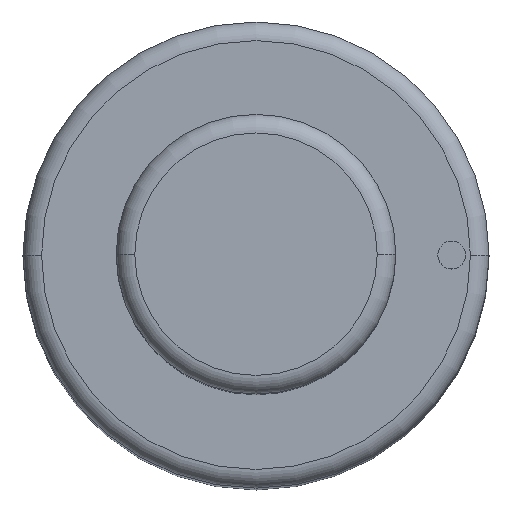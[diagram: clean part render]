
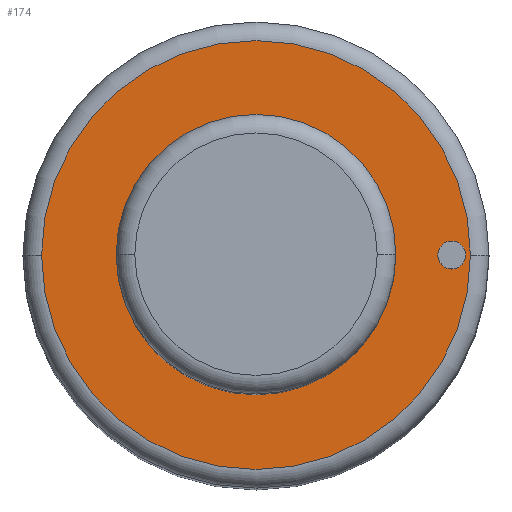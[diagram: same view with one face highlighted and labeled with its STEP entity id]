
A CAD part, top view. The second image highlights one B-rep face of the part: STEP entity #174.
In plain terms, the highlighted planar face has unit normal (0, 0, 1).
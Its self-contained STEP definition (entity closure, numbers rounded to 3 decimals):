
#99=FACE_BOUND('',#225,.T.);
#100=FACE_BOUND('',#226,.T.);
#101=FACE_BOUND('',#227,.T.);
#174=ADVANCED_FACE('',(#99,#100,#101),#180,.T.);
#180=PLANE('',#475);
#225=EDGE_LOOP('',(#307,#308));
#226=EDGE_LOOP('',(#309,#310));
#227=EDGE_LOOP('',(#311,#312));
#307=ORIENTED_EDGE('',*,*,#367,.F.);
#308=ORIENTED_EDGE('',*,*,#368,.F.);
#309=ORIENTED_EDGE('',*,*,#390,.F.);
#310=ORIENTED_EDGE('',*,*,#391,.F.);
#311=ORIENTED_EDGE('',*,*,#363,.T.);
#312=ORIENTED_EDGE('',*,*,#361,.T.);
#329=VERTEX_POINT('',#630);
#330=VERTEX_POINT('',#632);
#331=VERTEX_POINT('',#638);
#334=VERTEX_POINT('',#643);
#346=VERTEX_POINT('',#692);
#347=VERTEX_POINT('',#693);
#361=EDGE_CURVE('',#330,#329,#404,.T.);
#363=EDGE_CURVE('',#329,#330,#405,.T.);
#367=EDGE_CURVE('',#334,#331,#409,.T.);
#368=EDGE_CURVE('',#331,#334,#410,.T.);
#390=EDGE_CURVE('',#346,#347,#422,.T.);
#391=EDGE_CURVE('',#347,#346,#423,.T.);
#404=CIRCLE('',#440,7.5);
#405=CIRCLE('',#442,7.5);
#409=CIRCLE('',#447,11.5);
#410=CIRCLE('',#449,11.5);
#422=CIRCLE('',#473,0.75);
#423=CIRCLE('',#474,0.75);
#440=AXIS2_PLACEMENT_3D('',#631,#512,#513);
#442=AXIS2_PLACEMENT_3D('',#635,#517,#518);
#447=AXIS2_PLACEMENT_3D('',#644,#527,#528);
#449=AXIS2_PLACEMENT_3D('',#646,#531,#532);
#473=AXIS2_PLACEMENT_3D('',#691,#589,#590);
#474=AXIS2_PLACEMENT_3D('',#694,#591,#592);
#475=AXIS2_PLACEMENT_3D('',#695,#593,#594);
#512=DIRECTION('',(0.,0.,-1.));
#513=DIRECTION('',(0.,1.,0.));
#517=DIRECTION('',(0.,0.,-1.));
#518=DIRECTION('',(0.,-1.,0.));
#527=DIRECTION('',(0.,0.,-1.));
#528=DIRECTION('',(0.,1.,0.));
#531=DIRECTION('',(0.,0.,-1.));
#532=DIRECTION('',(0.,-1.,0.));
#589=DIRECTION('',(0.,0.,1.));
#590=DIRECTION('',(0.,1.,0.));
#591=DIRECTION('',(0.,0.,1.));
#592=DIRECTION('',(0.,-1.,0.));
#593=DIRECTION('',(0.,0.,1.));
#594=DIRECTION('',(0.,-1.,0.));
#630=CARTESIAN_POINT('',(-7.5,0.,59.));
#631=CARTESIAN_POINT('',(0.,0.,59.));
#632=CARTESIAN_POINT('',(7.5,0.,59.));
#635=CARTESIAN_POINT('',(0.,0.,59.));
#638=CARTESIAN_POINT('',(-11.5,0.,59.));
#643=CARTESIAN_POINT('',(11.5,0.,59.));
#644=CARTESIAN_POINT('',(0.,0.,59.));
#646=CARTESIAN_POINT('',(0.,0.,59.));
#691=CARTESIAN_POINT('',(10.5,0.,59.));
#692=CARTESIAN_POINT('',(9.75,0.,59.));
#693=CARTESIAN_POINT('',(11.25,0.,59.));
#694=CARTESIAN_POINT('',(10.5,0.,59.));
#695=CARTESIAN_POINT('',(0.,0.,59.));
